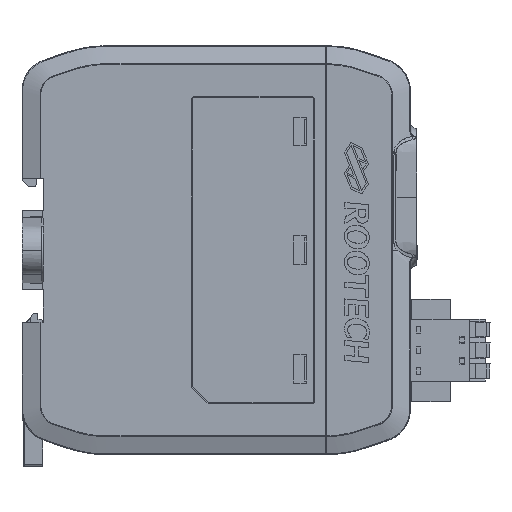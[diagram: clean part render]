
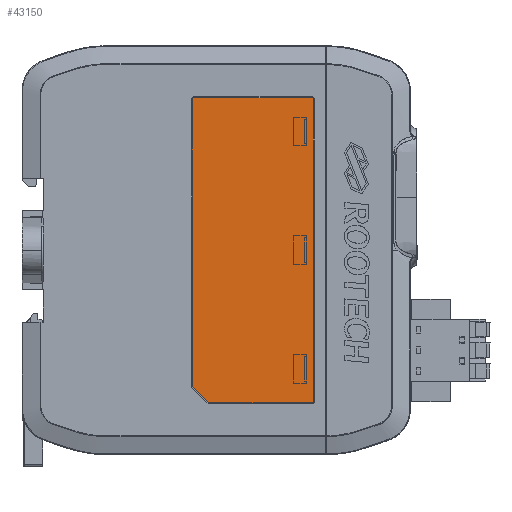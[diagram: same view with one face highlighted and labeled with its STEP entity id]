
A CAD part, left-side view. The second image highlights one B-rep face of the part: STEP entity #43150.
In plain terms, the highlighted planar face has unit normal (-1, 0, 0) as drawn and (0, 0, -1) by its records, which use the part's own axes.
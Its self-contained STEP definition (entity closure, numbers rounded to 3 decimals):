
#2723=PLANE('',#139942);
#15902=B_SPLINE_CURVE_WITH_KNOTS('',1,(#217553,#217554),.UNSPECIFIED.,.F.,
 .F.,(2,2),(-25.3,0.),.UNSPECIFIED.);
#15903=B_SPLINE_CURVE_WITH_KNOTS('',1,(#217558,#217559),.UNSPECIFIED.,.F.,
 .F.,(2,2),(-74.,0.),.UNSPECIFIED.);
#15904=B_SPLINE_CURVE_WITH_KNOTS('',1,(#217563,#217564),.UNSPECIFIED.,.F.,
 .F.,(2,2),(-29.,0.),.UNSPECIFIED.);
#15905=B_SPLINE_CURVE_WITH_KNOTS('',1,(#217568,#217569),.UNSPECIFIED.,.F.,
 .F.,(2,2),(-70.3,0.),.UNSPECIFIED.);
#15906=B_SPLINE_CURVE_WITH_KNOTS('',1,(#217570,#217571),.UNSPECIFIED.,.F.,
 .F.,(2,2),(0.,5.657),.UNSPECIFIED.);
#43150=ADVANCED_FACE('',(#47791),#2723,.T.);
#47791=FACE_OUTER_BOUND('',#52651,.T.);
#52651=EDGE_LOOP('',(#68865,#68866,#68867,#68868,#68869,#68870,#68871,#68872));
#68865=ORIENTED_EDGE('',*,*,#94692,.T.);
#68866=ORIENTED_EDGE('',*,*,#94693,.T.);
#68867=ORIENTED_EDGE('',*,*,#94694,.T.);
#68868=ORIENTED_EDGE('',*,*,#94695,.T.);
#68869=ORIENTED_EDGE('',*,*,#94696,.T.);
#68870=ORIENTED_EDGE('',*,*,#94697,.T.);
#68871=ORIENTED_EDGE('',*,*,#94698,.T.);
#68872=ORIENTED_EDGE('',*,*,#94699,.T.);
#94692=EDGE_CURVE('',#123947,#123948,#15902,.T.);
#94693=EDGE_CURVE('',#123948,#123949,#108943,.T.);
#94694=EDGE_CURVE('',#123949,#123950,#15903,.T.);
#94695=EDGE_CURVE('',#123950,#123951,#108944,.T.);
#94696=EDGE_CURVE('',#123951,#123952,#15904,.T.);
#94697=EDGE_CURVE('',#123952,#123953,#108945,.T.);
#94698=EDGE_CURVE('',#123953,#123954,#15905,.T.);
#94699=EDGE_CURVE('',#123954,#123947,#15906,.T.);
#108943=(
BOUNDED_CURVE()
B_SPLINE_CURVE(2,(#217555,#217556,#217557),.UNSPECIFIED.,.F.,.F.)
B_SPLINE_CURVE_WITH_KNOTS((3,3),(0.,0.471),.UNSPECIFIED.)
CURVE()
GEOMETRIC_REPRESENTATION_ITEM()
RATIONAL_B_SPLINE_CURVE((1.,0.707,1.))
REPRESENTATION_ITEM('')
);
#108944=(
BOUNDED_CURVE()
B_SPLINE_CURVE(2,(#217560,#217561,#217562),.UNSPECIFIED.,.F.,.F.)
B_SPLINE_CURVE_WITH_KNOTS((3,3),(0.,0.471),.UNSPECIFIED.)
CURVE()
GEOMETRIC_REPRESENTATION_ITEM()
RATIONAL_B_SPLINE_CURVE((1.,0.707,1.))
REPRESENTATION_ITEM('')
);
#108945=(
BOUNDED_CURVE()
B_SPLINE_CURVE(2,(#217565,#217566,#217567),.UNSPECIFIED.,.F.,.F.)
B_SPLINE_CURVE_WITH_KNOTS((3,3),(0.,0.471),.UNSPECIFIED.)
CURVE()
GEOMETRIC_REPRESENTATION_ITEM()
RATIONAL_B_SPLINE_CURVE((1.,0.707,1.))
REPRESENTATION_ITEM('')
);
#123947=VERTEX_POINT('',#217545);
#123948=VERTEX_POINT('',#217546);
#123949=VERTEX_POINT('',#217547);
#123950=VERTEX_POINT('',#217548);
#123951=VERTEX_POINT('',#217549);
#123952=VERTEX_POINT('',#217550);
#123953=VERTEX_POINT('',#217551);
#123954=VERTEX_POINT('',#217552);
#139942=AXIS2_PLACEMENT_3D('',#217544,#143628,$);
#143628=DIRECTION('',(0.,0.,-1.));
#217544=CARTESIAN_POINT('',(32.56,-7.46,0.));
#217545=CARTESIAN_POINT('',(25.6,0.,0.));
#217546=CARTESIAN_POINT('',(0.3,0.,0.));
#217547=CARTESIAN_POINT('',(0.,0.3,0.));
#217548=CARTESIAN_POINT('',(0.,74.3,0.));
#217549=CARTESIAN_POINT('',(0.3,74.6,0.));
#217550=CARTESIAN_POINT('',(29.3,74.6,0.));
#217551=CARTESIAN_POINT('',(29.6,74.3,0.));
#217552=CARTESIAN_POINT('',(29.6,4.,0.));
#217553=CARTESIAN_POINT('',(25.6,0.,0.));
#217554=CARTESIAN_POINT('',(0.3,0.,0.));
#217555=CARTESIAN_POINT('',(0.3,0.,0.));
#217556=CARTESIAN_POINT('',(0.,0.,0.));
#217557=CARTESIAN_POINT('',(0.,0.3,0.));
#217558=CARTESIAN_POINT('',(0.,0.3,0.));
#217559=CARTESIAN_POINT('',(0.,74.3,0.));
#217560=CARTESIAN_POINT('',(0.,74.3,0.));
#217561=CARTESIAN_POINT('',(0.,74.6,0.));
#217562=CARTESIAN_POINT('',(0.3,74.6,0.));
#217563=CARTESIAN_POINT('',(0.3,74.6,0.));
#217564=CARTESIAN_POINT('',(29.3,74.6,0.));
#217565=CARTESIAN_POINT('',(29.3,74.6,0.));
#217566=CARTESIAN_POINT('',(29.6,74.6,0.));
#217567=CARTESIAN_POINT('',(29.6,74.3,0.));
#217568=CARTESIAN_POINT('',(29.6,74.3,0.));
#217569=CARTESIAN_POINT('',(29.6,4.,0.));
#217570=CARTESIAN_POINT('',(29.6,4.,0.));
#217571=CARTESIAN_POINT('',(25.6,0.,0.));
